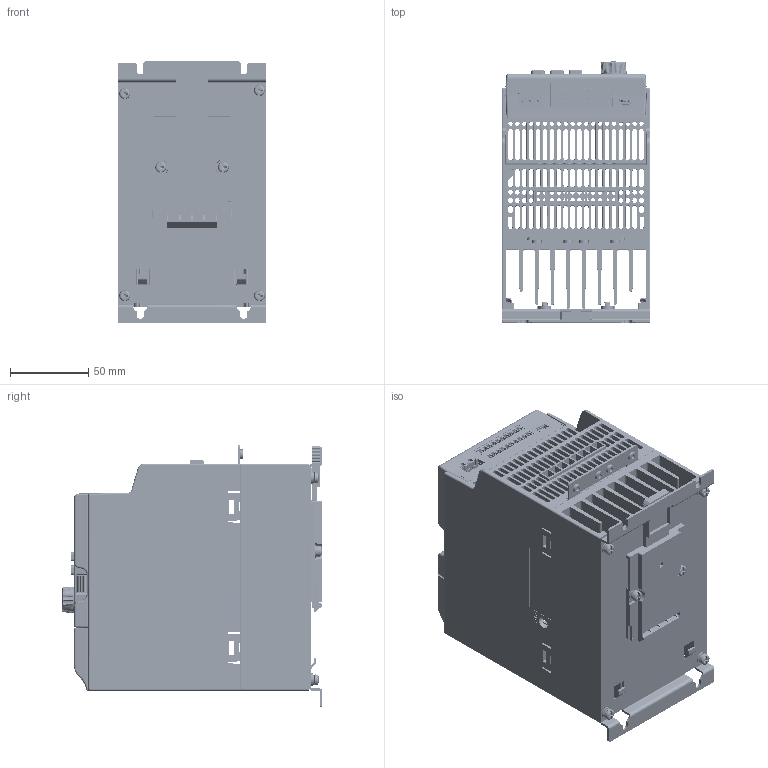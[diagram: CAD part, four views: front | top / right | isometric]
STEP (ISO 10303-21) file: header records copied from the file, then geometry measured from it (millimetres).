
FILE_DESCRIPTION((''),'2;1');
FILE_NAME('00_B_5_ASM','2014-07-28T',('zhi2xi'),(''),'PRO/ENGINEER BY PARAMETRIC TECHNOLOGY CORPORATION, 2009380','PRO/ENGINEER BY PARAMETRIC TECHNOLOGY CORPORATION, 2009380','');
FILE_SCHEMA(('CONFIG_CONTROL_DESIGN'));
Length unit declared in the file: millimetre
Products named in the file (36): R912005502; B_5_DIBAN; LDZHJ_SZCYZT_M4X10; PRT0010; PRT0031; ASM0003_ASM; R912005500; PL_EFC5610_IOCAE_CONVER; LK_YCP06-PLATINE; CPU_CONNECTOR-14P; CONNECTOR; CONNECTOR_TYCO-331; 548190519; CONNECT2-2; 2185-205SY3; 1155590000; LK_YCP06_ASM; DB272710; 01-IOBACK_CASE; LD_KCCT_M3X10; 01_DISPLAYCASE; DISPLAY_PCB1; R911329772; R911330025; LED; CONNECTOR2; DISPLAY_PCB_ASM; BACK_CASE1; R911330333_FOLIE; BUUTTON; XUAN_NIU; LABEL_15X50; 02-DISPLAY-CASE_ASM; 01-IOCASE_ASM; GND; 00_B_5_ASM
Assembly tree (49 placements, depth 5):
  00_B_5_ASM
    R912005502
    B_5_DIBAN
    LDZHJ_SZCYZT_M4X10  x6
    ASM0003_ASM
      PRT0010
      PRT0031
    R912005500
    01-IOCASE_ASM
      PL_EFC5610_IOCAE_CONVER
      LK_YCP06_ASM
        LK_YCP06-PLATINE
        CPU_CONNECTOR-14P
        CONNECTOR
        CONNECTOR_TYCO-331
        548190519
        CONNECT2-2
        2185-205SY3
        1155590000
      DB272710
      01-IOBACK_CASE
      LD_KCCT_M3X10  x2
      02-DISPLAY-CASE_ASM
        01_DISPLAYCASE
        DISPLAY_PCB_ASM
          DISPLAY_PCB1
          R911329772  x6
          R911330025
          LED
          CONNECTOR2
          CONNECTOR_TYCO-331
        BACK_CASE1
        R911330333_FOLIE
        BUUTTON
        XUAN_NIU
        LD_KCCT_M3X10  x2
        LABEL_15X50
    GND
Bounding box: 95 x 166.55 x 167.5 mm (x, y, z)
Volume: 471787.4 mm3; surface area: 439373.5 mm2
Topology: 56 solids, 62 shells, 9507 faces, 24612 edges, 15521 vertices
Faces by surface type: plane 5309, cylinder 2183, bspline 1202, torus 351, cone 197, sphere 145, extrusion 120
Entity records: 386719 total; most frequent: CARTESIAN_POINT 119872, ORIENTED_EDGE 43418, DIRECTION 38526, EDGE_CURVE 21709, PRESENTATION_STYLE_ASSIGNMENT 18432, STYLED_ITEM 17364, CURVE_STYLE 17264, VECTOR 15110
